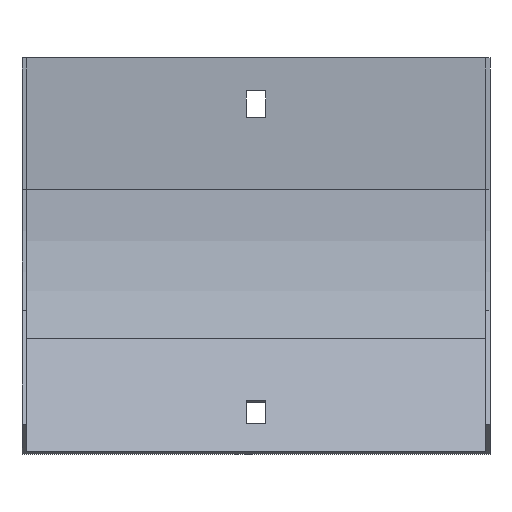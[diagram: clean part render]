
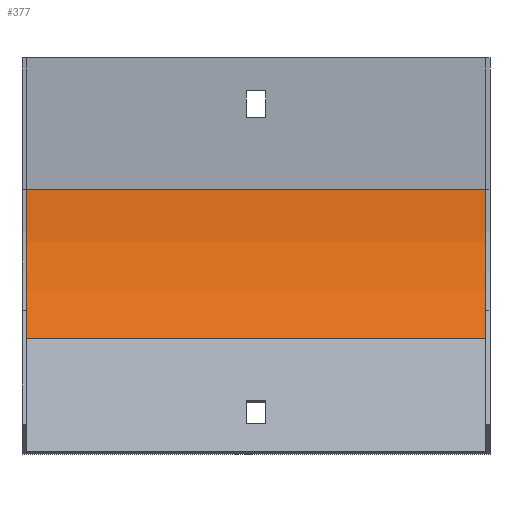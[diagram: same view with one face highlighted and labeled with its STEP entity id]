
A CAD part, front view. The second image highlights one B-rep face of the part: STEP entity #377.
In plain terms, the highlighted cylindrical face has radius 100 mm (diameter 200 mm), a partial arc.
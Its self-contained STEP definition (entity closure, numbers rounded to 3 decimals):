
#36 = EDGE_CURVE ( 'NONE', #384, #832, #470, .T. ) ;
#39 = AXIS2_PLACEMENT_3D ( 'NONE', #728, #464, #52 ) ;
#45 = ORIENTED_EDGE ( 'NONE', *, *, #390, .F. ) ;
#52 = DIRECTION ( 'NONE',  ( 0., 0., 1. ) ) ;
#92 = CARTESIAN_POINT ( 'NONE',  ( 78.5, -101.5, -44. ) ) ;
#105 = FACE_OUTER_BOUND ( 'NONE', #641, .T. ) ;
#121 = DIRECTION ( 'NONE',  ( -1., 0., 0. ) ) ;
#147 = LINE ( 'NONE', #311, #636 ) ;
#236 = EDGE_CURVE ( 'NONE', #381, #774, #147, .T. ) ;
#296 = ORIENTED_EDGE ( 'NONE', *, *, #36, .T. ) ;
#301 = CARTESIAN_POINT ( 'NONE',  ( 77., -14.897, -94. ) ) ;
#308 = ORIENTED_EDGE ( 'NONE', *, *, #236, .F. ) ;
#311 = CARTESIAN_POINT ( 'NONE',  ( 78.5, -14.897, -94. ) ) ;
#333 = ORIENTED_EDGE ( 'NONE', *, *, #783, .T. ) ;
#355 = DIRECTION ( 'NONE',  ( 0., 0., 1. ) ) ;
#369 = CARTESIAN_POINT ( 'NONE',  ( -77., -1.5, -44. ) ) ;
#377 = ADVANCED_FACE ( 'NONE', ( #105 ), #435, .F. ) ;
#381 = VERTEX_POINT ( 'NONE', #301 ) ;
#384 = VERTEX_POINT ( 'NONE', #642 ) ;
#390 = EDGE_CURVE ( 'NONE', #774, #832, #480, .T. ) ;
#406 = AXIS2_PLACEMENT_3D ( 'NONE', #803, #737, #489 ) ;
#419 = CARTESIAN_POINT ( 'NONE',  ( -77., -14.897, -94. ) ) ;
#426 = DIRECTION ( 'NONE',  ( -1., 0., 0. ) ) ;
#435 = CYLINDRICAL_SURFACE ( 'NONE', #738, 100. ) ;
#460 = VECTOR ( 'NONE', #121, 1000. ) ;
#464 = DIRECTION ( 'NONE',  ( 1., 0., 0. ) ) ;
#470 = LINE ( 'NONE', #851, #460 ) ;
#480 = CIRCLE ( 'NONE', #39, 100. ) ;
#489 = DIRECTION ( 'NONE',  ( 0., 0., 1. ) ) ;
#578 = DIRECTION ( 'NONE',  ( -1., 0., 0. ) ) ;
#636 = VECTOR ( 'NONE', #578, 1000. ) ;
#641 = EDGE_LOOP ( 'NONE', ( #45, #308, #333, #296 ) ) ;
#642 = CARTESIAN_POINT ( 'NONE',  ( 77., -1.5, -44. ) ) ;
#728 = CARTESIAN_POINT ( 'NONE',  ( -77., -101.5, -44. ) ) ;
#737 = DIRECTION ( 'NONE',  ( 1., 0., 0. ) ) ;
#738 = AXIS2_PLACEMENT_3D ( 'NONE', #92, #426, #355 ) ;
#774 = VERTEX_POINT ( 'NONE', #419 ) ;
#779 = CIRCLE ( 'NONE', #406, 100. ) ;
#783 = EDGE_CURVE ( 'NONE', #381, #384, #779, .T. ) ;
#803 = CARTESIAN_POINT ( 'NONE',  ( 77., -101.5, -44. ) ) ;
#832 = VERTEX_POINT ( 'NONE', #369 ) ;
#851 = CARTESIAN_POINT ( 'NONE',  ( 78.5, -1.5, -44. ) ) ;
